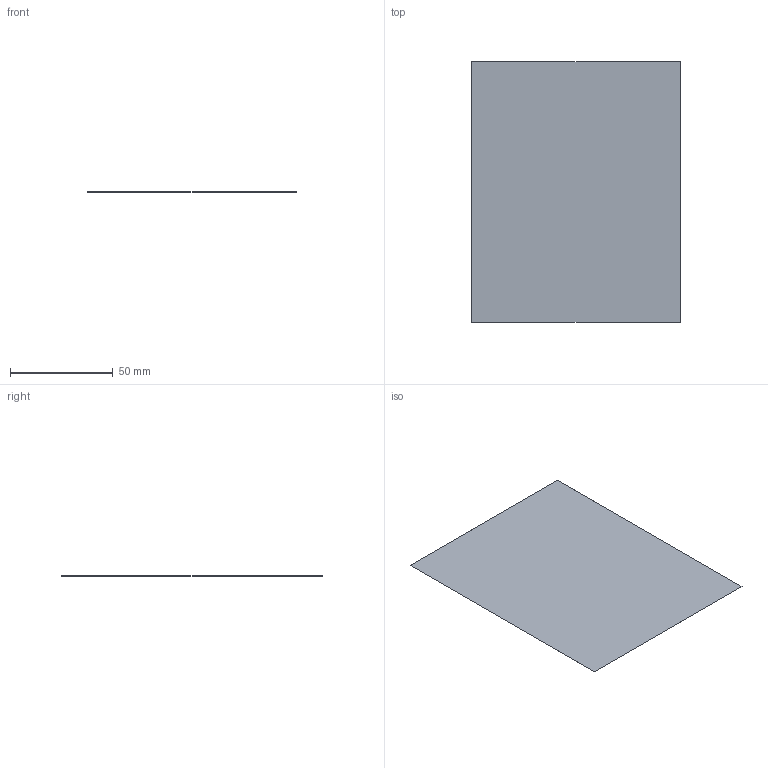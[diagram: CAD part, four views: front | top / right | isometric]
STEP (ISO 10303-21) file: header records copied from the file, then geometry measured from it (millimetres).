
FILE_DESCRIPTION (( 'STEP AP203' ), '1' );
FILE_NAME ('REF_film_4x5in_10um.step', '2026-10-22T14:08:36', ( '' ), ( '' ), 'SwSTEP 2.0', 'SolidWorks 2025', '' );
FILE_SCHEMA (( 'CONFIG_CONTROL_DESIGN' ));
Length unit declared in the file: millimetre
Products named in the file (1): REF_film_4x5in_10um
Bounding box: 101.6 x 127 x 0.01 mm (x, y, z)
Volume: 129 mm3; surface area: 25811 mm2
Topology: 1 solids, 1 shells, 6 faces, 12 edges, 8 vertices
Faces by surface type: plane 6
Entity records: 233 total; most frequent: CARTESIAN_POINT 27, DIRECTION 26, ORIENTED_EDGE 24, VECTOR 12, EDGE_CURVE 12, LINE 12, PERSON_AND_ORGANIZATION 8, VERTEX_POINT 8
